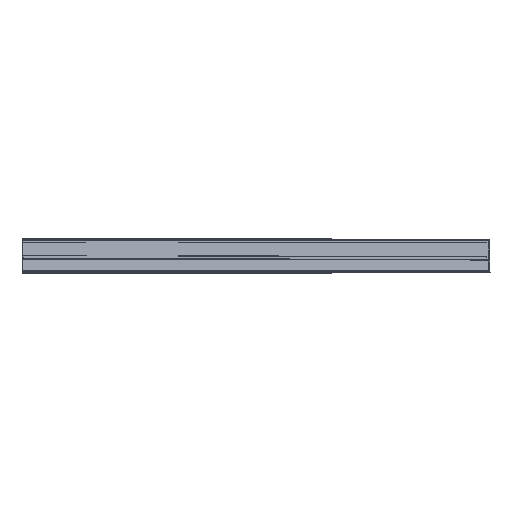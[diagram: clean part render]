
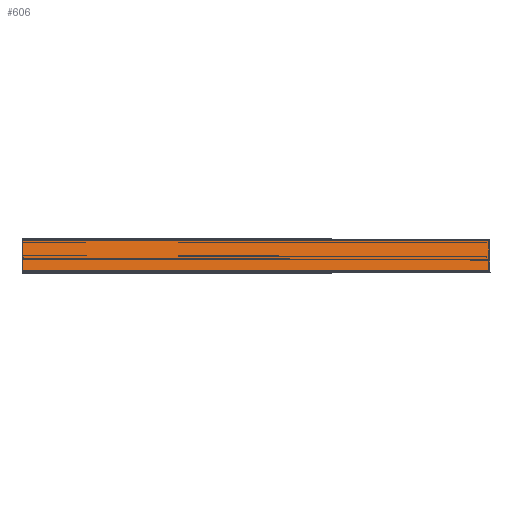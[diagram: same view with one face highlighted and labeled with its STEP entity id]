
A CAD part, top view. The second image highlights one B-rep face of the part: STEP entity #606.
In plain terms, the highlighted planar face has unit normal (0.5, 0, 0.866) as drawn and (-1, 0, 0) by its records, which use the part's own axes.
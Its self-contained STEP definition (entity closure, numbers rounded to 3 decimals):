
#606=ADVANCED_FACE('',(#2624),#2626,.T.);
#2624=FACE_BOUND('',#2625,.T.);
#2625=EDGE_LOOP('',(#6794,#6795,#6796,#6797));
#2626=PLANE('',#2627);
#2627=AXIS2_PLACEMENT_3D('',#2628,#2629,#2630);
#2628=CARTESIAN_POINT('',(-25.,4.,-561.5));
#2629=DIRECTION('',(-1.,0.,0.));
#2630=DIRECTION('',(0.,-1.,0.));
#6794=ORIENTED_EDGE('',*,*,#9535,.T.);
#6795=ORIENTED_EDGE('',*,*,#9726,.T.);
#6796=ORIENTED_EDGE('',*,*,#9727,.T.);
#6797=ORIENTED_EDGE('',*,*,#9728,.F.);
#9535=EDGE_CURVE('',#11715,#11712,#11716,.F.);
#9726=EDGE_CURVE('',#11712,#12094,#12096,.T.);
#9727=EDGE_CURVE('',#12094,#12097,#12098,.F.);
#9728=EDGE_CURVE('',#11715,#12097,#12099,.T.);
#11712=VERTEX_POINT('',#16196);
#11715=VERTEX_POINT('',#16202);
#11716=LINE('',#16203,#16204);
#12094=VERTEX_POINT('',#17080);
#12096=LINE('',#17085,#17086);
#12097=VERTEX_POINT('',#17088);
#12098=LINE('',#17089,#17090);
#12099=LINE('',#17092,#17093);
#16196=CARTESIAN_POINT('',(-25.,-63.75,-561.5));
#16202=CARTESIAN_POINT('',(-25.,4.,-561.5));
#16203=CARTESIAN_POINT('',(-25.,-63.75,-561.5));
#16204=VECTOR('',#16205,1.);
#16205=DIRECTION('',(0.,1.,0.));
#17080=CARTESIAN_POINT('',(-25.,-63.75,561.5));
#17085=CARTESIAN_POINT('',(-25.,-63.75,-561.5));
#17086=VECTOR('',#17087,1.);
#17087=DIRECTION('',(0.,0.,1.));
#17088=CARTESIAN_POINT('',(-25.,4.,561.5));
#17089=CARTESIAN_POINT('',(-25.,4.,561.5));
#17090=VECTOR('',#17091,1.);
#17091=DIRECTION('',(0.,-1.,0.));
#17092=CARTESIAN_POINT('',(-25.,4.,-561.5));
#17093=VECTOR('',#17094,1.);
#17094=DIRECTION('',(0.,0.,1.));
